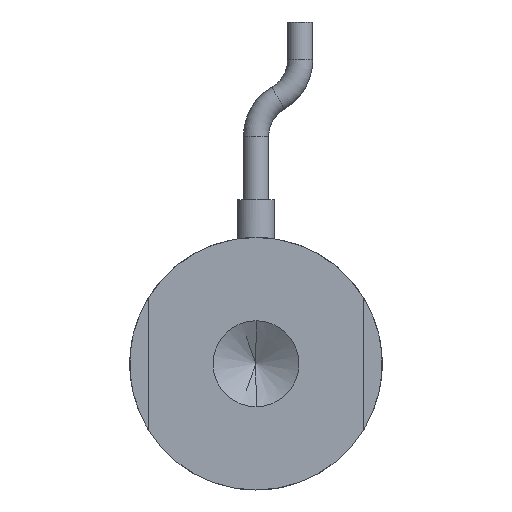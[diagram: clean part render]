
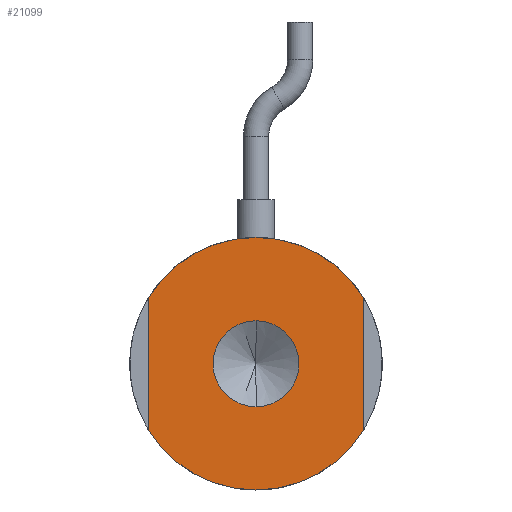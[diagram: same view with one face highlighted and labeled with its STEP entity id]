
A CAD part, front view. The second image highlights one B-rep face of the part: STEP entity #21099.
In plain terms, the highlighted planar face has unit normal (0, -1, 0).
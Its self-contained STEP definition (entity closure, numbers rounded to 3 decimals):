
#146 = CARTESIAN_POINT ( 'NONE',  ( 0., 0., 10. ) ) ;
#1107 = VERTEX_POINT ( 'NONE', #5570 ) ;
#1411 = CARTESIAN_POINT ( 'NONE',  ( 8.5, 0., -5.268 ) ) ;
#1856 = AXIS2_PLACEMENT_3D ( 'NONE', #5704, #29928, #9230 ) ;
#1920 = CARTESIAN_POINT ( 'NONE',  ( -8.5, 0., 0. ) ) ;
#2610 = VERTEX_POINT ( 'NONE', #4739 ) ;
#3093 = ORIENTED_EDGE ( 'NONE', *, *, #40306, .F. ) ;
#3332 = CIRCLE ( 'NONE', #15231, 10. ) ;
#3566 = EDGE_CURVE ( 'NONE', #22851, #31068, #25871, .T. ) ;
#4235 = CARTESIAN_POINT ( 'NONE',  ( 0., 0., 3.4 ) ) ;
#4739 = CARTESIAN_POINT ( 'NONE',  ( 0., 0., -10. ) ) ;
#4761 = ORIENTED_EDGE ( 'NONE', *, *, #10207, .F. ) ;
#5077 = ORIENTED_EDGE ( 'NONE', *, *, #37299, .F. ) ;
#5570 = CARTESIAN_POINT ( 'NONE',  ( 0., 0., -3.4 ) ) ;
#5704 = CARTESIAN_POINT ( 'NONE',  ( 0., 0., 0. ) ) ;
#5743 = VERTEX_POINT ( 'NONE', #17142 ) ;
#5821 = CIRCLE ( 'NONE', #1856, 3.4 ) ;
#5860 = CARTESIAN_POINT ( 'NONE',  ( 8.5, 0., 0. ) ) ;
#6068 = FACE_BOUND ( 'NONE', #28764, .T. ) ;
#6089 = EDGE_LOOP ( 'NONE', ( #23763, #21095, #41538, #38782, #5077, #30015 ) ) ;
#6317 = PLANE ( 'NONE',  #42960 ) ;
#6507 = LINE ( 'NONE', #5860, #36387 ) ;
#6684 = DIRECTION ( 'NONE',  ( 0., 1., 0. ) ) ;
#8340 = DIRECTION ( 'NONE',  ( 0., 1., 0. ) ) ;
#9230 = DIRECTION ( 'NONE',  ( 0., 0., -1. ) ) ;
#9404 = DIRECTION ( 'NONE',  ( 0., 0., -1. ) ) ;
#9843 = CARTESIAN_POINT ( 'NONE',  ( 0., 0., 0. ) ) ;
#10207 = EDGE_CURVE ( 'NONE', #1107, #26212, #41153, .T. ) ;
#11515 = DIRECTION ( 'NONE',  ( 0., 1., 0. ) ) ;
#13352 = DIRECTION ( 'NONE',  ( 0., 0., 1. ) ) ;
#13373 = DIRECTION ( 'NONE',  ( 0., 1., 0. ) ) ;
#14323 = DIRECTION ( 'NONE',  ( 0., -1., 0. ) ) ;
#15093 = CARTESIAN_POINT ( 'NONE',  ( -8.5, 0., -5.268 ) ) ;
#15231 = AXIS2_PLACEMENT_3D ( 'NONE', #27393, #6684, #30900 ) ;
#15812 = EDGE_CURVE ( 'NONE', #33689, #22851, #34440, .T. ) ;
#17142 = CARTESIAN_POINT ( 'NONE',  ( 8.5, 0., 5.268 ) ) ;
#18601 = FACE_OUTER_BOUND ( 'NONE', #6089, .T. ) ;
#19102 = EDGE_CURVE ( 'NONE', #2610, #33689, #3332, .T. ) ;
#21077 = AXIS2_PLACEMENT_3D ( 'NONE', #32184, #11515, #35721 ) ;
#21095 = ORIENTED_EDGE ( 'NONE', *, *, #19102, .F. ) ;
#21099 = ADVANCED_FACE ( 'NONE', ( #6068, #18601 ), #6317, .F. ) ;
#21758 = CARTESIAN_POINT ( 'NONE',  ( -8.5, 0., 5.268 ) ) ;
#22797 = DIRECTION ( 'NONE',  ( 0., 0., 1. ) ) ;
#22851 = VERTEX_POINT ( 'NONE', #21758 ) ;
#23763 = ORIENTED_EDGE ( 'NONE', *, *, #15812, .F. ) ;
#25155 = VECTOR ( 'NONE', #22797, 1000. ) ;
#25871 = CIRCLE ( 'NONE', #30794, 10. ) ;
#26212 = VERTEX_POINT ( 'NONE', #4235 ) ;
#27393 = CARTESIAN_POINT ( 'NONE',  ( 0., 0., 0. ) ) ;
#27425 = AXIS2_PLACEMENT_3D ( 'NONE', #9843, #34050, #13352 ) ;
#28764 = EDGE_LOOP ( 'NONE', ( #4761, #3093 ) ) ;
#29060 = CARTESIAN_POINT ( 'NONE',  ( 0., 0., 0. ) ) ;
#29327 = EDGE_CURVE ( 'NONE', #37762, #2610, #31827, .T. ) ;
#29928 = DIRECTION ( 'NONE',  ( 0., -1., 0. ) ) ;
#30015 = ORIENTED_EDGE ( 'NONE', *, *, #3566, .F. ) ;
#30537 = CARTESIAN_POINT ( 'NONE',  ( 0., 0., 0. ) ) ;
#30592 = AXIS2_PLACEMENT_3D ( 'NONE', #35033, #14323, #38558 ) ;
#30794 = AXIS2_PLACEMENT_3D ( 'NONE', #29060, #8340, #32568 ) ;
#30900 = DIRECTION ( 'NONE',  ( 0., 0., 1. ) ) ;
#31068 = VERTEX_POINT ( 'NONE', #146 ) ;
#31827 = CIRCLE ( 'NONE', #27425, 10. ) ;
#32184 = CARTESIAN_POINT ( 'NONE',  ( 0., 0., 0. ) ) ;
#32568 = DIRECTION ( 'NONE',  ( 0., 0., 1. ) ) ;
#32868 = EDGE_CURVE ( 'NONE', #5743, #37762, #6507, .T. ) ;
#33689 = VERTEX_POINT ( 'NONE', #15093 ) ;
#34050 = DIRECTION ( 'NONE',  ( 0., 1., 0. ) ) ;
#34440 = LINE ( 'NONE', #1920, #25155 ) ;
#35033 = CARTESIAN_POINT ( 'NONE',  ( 0., 0., 0. ) ) ;
#35721 = DIRECTION ( 'NONE',  ( 0., 0., 1. ) ) ;
#36387 = VECTOR ( 'NONE', #9404, 1000. ) ;
#37299 = EDGE_CURVE ( 'NONE', #31068, #5743, #43479, .T. ) ;
#37605 = DIRECTION ( 'NONE',  ( 0., 0., 1. ) ) ;
#37762 = VERTEX_POINT ( 'NONE', #1411 ) ;
#38558 = DIRECTION ( 'NONE',  ( 0., 0., -1. ) ) ;
#38782 = ORIENTED_EDGE ( 'NONE', *, *, #32868, .F. ) ;
#40306 = EDGE_CURVE ( 'NONE', #26212, #1107, #5821, .T. ) ;
#41153 = CIRCLE ( 'NONE', #30592, 3.4 ) ;
#41538 = ORIENTED_EDGE ( 'NONE', *, *, #29327, .F. ) ;
#42960 = AXIS2_PLACEMENT_3D ( 'NONE', #30537, #13373, #37605 ) ;
#43479 = CIRCLE ( 'NONE', #21077, 10. ) ;
